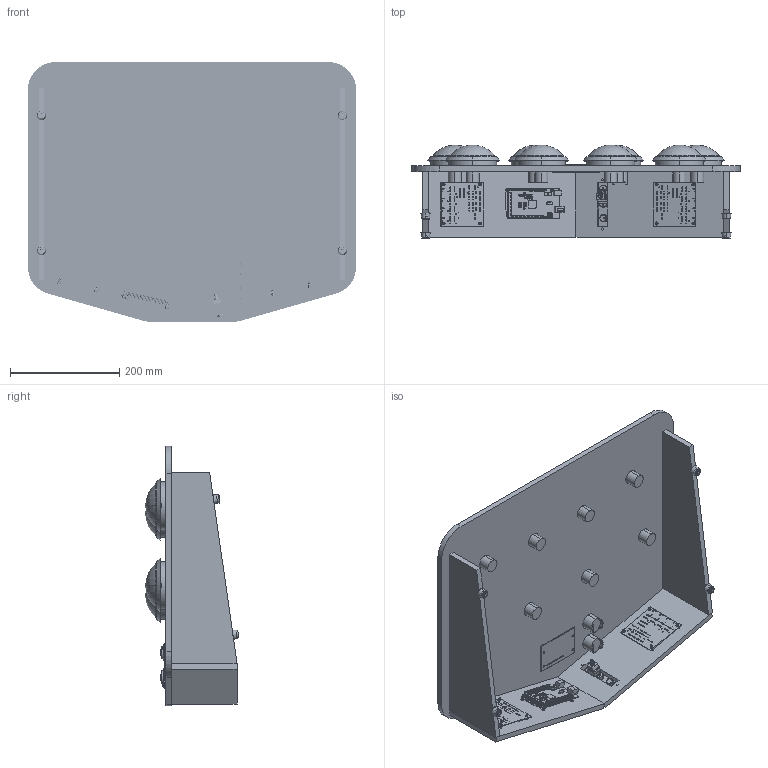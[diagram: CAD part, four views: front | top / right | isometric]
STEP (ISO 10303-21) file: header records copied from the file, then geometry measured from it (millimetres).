
FILE_DESCRIPTION (( 'STEP AP214' ), '1' );
FILE_NAME ('Game Board Assembly.STEP', '2018-05-10T20:38:51', ( '' ), ( '' ), 'SwSTEP 2.0', 'SolidWorks 2015', '' );
FILE_SCHEMA (( 'AUTOMOTIVE_DESIGN' ));
Length unit declared in the file: millimetre
Products named in the file (20): pan cross head_am_B18.6.7M - M4 x 0.7 x 10 Type I Cross Recessed PHMS --10N; Back Plate; PCB_04-02-2018; Board Top; Faceplate; Foot; Back_Cutout; 100mm_Button; 30mm_Button; Mega2560; RGB LCD; Back Plate Assy; Standoff; Game Board Assembly; Legs; USB Panel; Faceplate Assy; Back; pan cross head_am_B18.6.7M - M3 x 0.5 x 10 Type I Cross Recessed PHMS --10N; Barrel Jack
Assembly tree (53 placements, depth 3):
  Game Board Assembly
    Board Top
    Legs  x2
    Back
    Back_Cutout
    Back Plate Assy
      Back Plate
      USB Panel
      Barrel Jack
    30mm_Button  x2
    Faceplate Assy
      Faceplate
      RGB LCD
      Standoff  x4
    100mm_Button  x8
    PCB_04-02-2018  x2
    Standoff  x12
    pan cross head_am_B18.6.7M - M4 x 0.7 x 10 Type I Cross Recessed PHMS --10N  x6
    pan cross head_am_B18.6.7M - M3 x 0.5 x 10 Type I Cross Recessed PHMS --10N  x2
    Mega2560
    Foot  x4
Bounding box: 600 x 171.32 x 475 mm (x, y, z)
Volume: 5537763.7 mm3; surface area: 1230579.2 mm2
Topology: 61 solids, 95 shells, 3708 faces, 9643 edges, 6305 vertices
Faces by surface type: plane 1959, cylinder 1016, cone 398, bspline 259, torus 38, sphere 38
Entity records: 93111 total; most frequent: CARTESIAN_POINT 23823, ORIENTED_EDGE 12796, DIRECTION 12235, EDGE_CURVE 6402, LINE 4695, VECTOR 4695, VERTEX_POINT 4228, AXIS2_PLACEMENT_3D 3770
